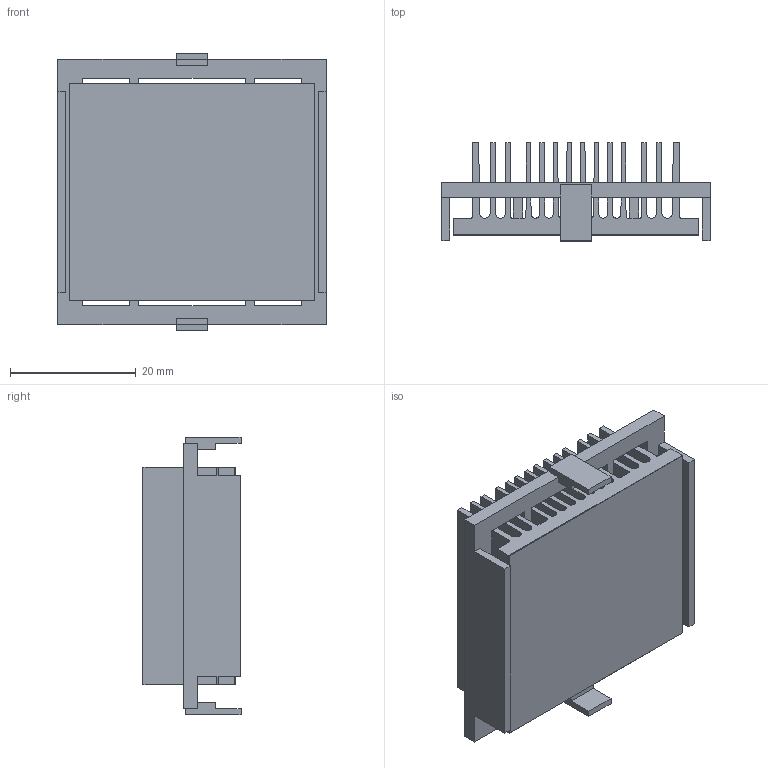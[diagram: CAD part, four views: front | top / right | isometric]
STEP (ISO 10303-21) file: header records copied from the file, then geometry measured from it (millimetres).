
FILE_DESCRIPTION (( 'STEP AP214' ), '1' );
FILE_NAME ('INH40001-15-2.6O.STEP', '2023-02-20T19:43:52', ( '' ), ( '' ), 'SwSTEP 2.0', 'SolidWorks 2020', '' );
FILE_SCHEMA (( 'AUTOMOTIVE_DESIGN' ));
Length unit declared in the file: millimetre
Products named in the file (1): INH40001-15-2.6O
Bounding box: 42.7 x 15.6 x 44.2 mm (x, y, z)
Volume: 10441 mm3; surface area: 20536.3 mm2
Topology: 3 solids, 3 shells, 154 faces, 444 edges, 296 vertices
Faces by surface type: plane 126, cylinder 28
Entity records: 6754 total; most frequent: CARTESIAN_POINT 895, ORIENTED_EDGE 888, DIRECTION 810, EDGE_CURVE 444, VECTOR 388, LINE 388, VERTEX_POINT 296, AXIS2_PLACEMENT_3D 211
